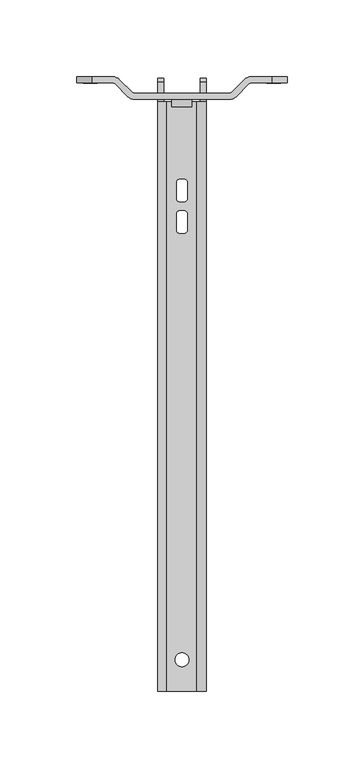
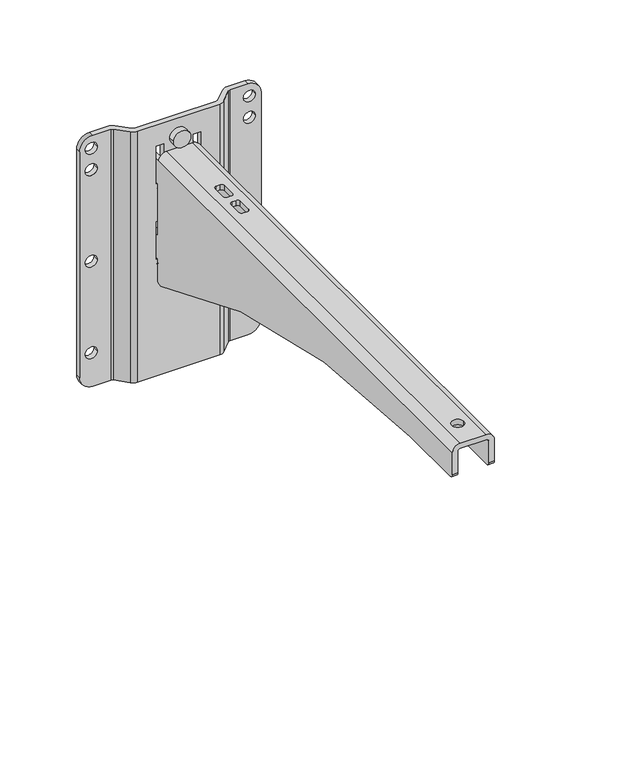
"""IFC4 building model written with IfcOpenShell, lengths in millimetres: proxy geometry, ePS12-WM380-HBRK600-WHM : ePS12-WM380-HBRK600-WHM."""

from ifc_helpers import new_model, si_unit, point, frame, frame_2d, origin, place, context, project, spatial, polyline, circle_curve, trimmed, segment, composite_curve, outline, extrude, source, transform, mapped, element, save
from ifc_brep_helpers import plane_surface, cylinder_surface, revolved_surface, advanced_brep


def generic_models_0e3356a9(model_context):
    return source(origin(), model_context, "Body", "SolidModel", [
        advanced_brep(
        [(-11.75, -399.8566017, -18.0), (-9.75, -399.8566017, -16.0), (9.75, -399.8566017, -16.0), (11.75, -399.8566017, -18.0), (11.75, -399.8566017, -35.0), (15.75, -399.8566017, -35.0), (15.75, -399.8566017, -17.9999955), (9.7500045, -399.8566017, -12.0), (-9.7500045, -399.8566017, -12.0), (-15.75, -399.8566017, -17.9999955), (-15.75, -399.8566017, -35.0), (-11.75, -399.8566017, -35.0), (15.75, -1.0, -19.5148645), (15.75, -1.0, -44.4851355), (11.75, -1.0, -44.4851355), (11.75, -1.0, -19.5148645), (15.75, -1.0, -79.5148645), (15.75, -1.0, -104.4851355), (11.75, -1.0, -104.4851355), (11.75, -1.0, -79.5148645), (-11.75, -1.0, -19.5148645), (-11.75, -1.0, -44.4851355), (-15.75, -1.0, -44.4851355), (-15.75, -1.0, -19.5148645), (-11.75, -1.0, -79.5148645), (-11.75, -1.0, -104.4851355), (-15.75, -1.0, -104.4851355), (-15.75, -1.0, -79.5148645), (-15.75, -3.6066017, -46.0), (-15.75, -6.6066017, -46.0), (-15.75, -9.6066017, -43.0), (-15.75, -9.6066017, -36.5), (-15.75, -14.6066017, -36.5), (-15.75, -14.6066017, -78.0), (-15.75, -3.6066017, -78.0), (-15.75, -3.6066017, -106.0), (-15.75, -6.6066017, -106.0), (-15.75, -9.6066017, -103.0), (-15.75, -9.6066017, -96.5), (-15.75, -14.6066017, -96.5), (-15.75, -14.6066017, -112.5881217), (-15.75, -16.6804563, -115.7221159), (-15.75, -19.036227, -115.7221159), (-15.75, -344.8566017, -38.0), (-15.75, -396.8566017, -38.0), (-15.75, -16.1066017, -17.9999955), (-15.75, -3.6066017, -18.0), (-11.75, -16.6804563, -115.7221159), (-11.75, -19.036227, -115.7221159), (-11.75, -3.6066017, -18.0), (-11.75, -16.1066017, -18.0), (-11.75, -396.8566017, -38.0), (-11.75, -344.8566017, -38.0), (-11.75, -14.6066017, -112.5881217), (-11.75, -14.6066017, -96.5), (-11.75, -9.6066017, -96.5), (-11.75, -9.6066017, -103.0), (-11.75, -6.6066017, -106.0), (-11.75, -3.6066017, -106.0), (-11.75, -3.6066017, -78.0), (-11.75, -14.6066017, -78.0), (-11.75, -14.6066017, -36.5), (-11.75, -9.6066017, -36.5), (-11.75, -9.6066017, -43.0), (-11.75, -6.6066017, -46.0), (-11.75, -3.6066017, -46.0), (-9.75, -16.1066017, -16.0), (9.75, -16.1066017, -16.0), (-4.5, -379.5, -16.0), (4.5, -379.5, -16.0), (3.5, -79.2837261, -16.0), (3.5, -68.7837261, -16.0), (1.5, -66.7837261, -16.0), (-1.5, -66.7837261, -16.0), (-3.5, -68.7837261, -16.0), (-3.5, -79.2837261, -16.0), (-1.5, -81.2837261, -16.0), (1.5, -81.2837261, -16.0), (3.5, -99.7837261, -16.0), (3.5, -89.2837261, -16.0), (1.5, -87.2837261, -16.0), (-1.5, -87.2837261, -16.0), (-3.5, -89.2837261, -16.0), (-3.5, -99.7837261, -16.0), (-1.5, -101.7837261, -16.0), (1.5, -101.7837261, -16.0), (11.75, -16.1066017, -18.0), (11.75, -3.6066017, -46.0), (11.75, -6.6066017, -46.0), (11.75, -9.6066017, -43.0), (11.75, -9.6066017, -36.5), (11.75, -14.6066017, -36.5), (11.75, -14.6066017, -78.0), (11.75, -3.6066017, -78.0), (11.75, -3.6066017, -106.0), (11.75, -6.6066017, -106.0), (11.75, -9.6066017, -103.0), (11.75, -9.6066017, -96.5), (11.75, -14.6066017, -96.5), (11.75, -14.6066017, -112.5881217), (11.75, -16.6804563, -115.7221159), (11.75, -19.036227, -115.7221159), (11.75, -344.8566017, -38.0), (11.75, -396.8566017, -38.0), (11.75, -3.6066017, -18.0), (15.75, -16.6804563, -115.7221159), (15.75, -19.036227, -115.7221159), (15.75, -3.6066017, -18.0), (15.75, -16.1066017, -18.0), (15.75, -396.8566017, -38.0), (15.75, -344.8566017, -38.0), (15.75, -14.6066017, -112.5881217), (15.75, -14.6066017, -96.5), (15.75, -9.6066017, -96.5), (15.75, -9.6066017, -103.0), (15.75, -6.6066017, -106.0), (15.75, -3.6066017, -106.0), (15.75, -3.6066017, -78.0), (15.75, -14.6066017, -78.0), (15.75, -14.6066017, -36.5), (15.75, -9.6066017, -36.5), (15.75, -9.6066017, -43.0), (15.75, -6.6066017, -46.0), (15.75, -3.6066017, -46.0), (9.7500045, -16.1066017, -12.0), (-9.7500045, -16.1066017, -12.0), (4.5, -379.5, -12.0), (-4.5, -379.5, -12.0), (3.5, -68.7837261, -12.0), (3.5, -79.2837261, -12.0), (1.5, -81.2837261, -12.0), (-1.5, -81.2837261, -12.0), (-3.5, -79.2837261, -12.0), (-3.5, -68.7837261, -12.0), (-1.5, -66.7837261, -12.0), (1.5, -66.7837261, -12.0), (3.5, -89.2837261, -12.0), (3.5, -99.7837261, -12.0), (1.5, -101.7837261, -12.0), (-1.5, -101.7837261, -12.0), (-3.5, -99.7837261, -12.0), (-3.5, -89.2837261, -12.0), (-1.5, -87.2837261, -12.0), (1.5, -87.2837261, -12.0)],
        [
            (0, 1, circle_curve(frame((-9.75, -399.8566017, -18.0), z_axis=(0.0, 1.0, 0.0), x_axis=(1.0, 0.0, 0.0)), 2.0)),
            (1, 2),
            (2, 3, circle_curve(frame((9.75, -399.8566017, -18.0), z_axis=(0.0, 1.0, 0.0), x_axis=(-1.0, 0.0, 0.0)), 2.0)),
            (3, 4),
            (4, 5),
            (5, 6),
            (6, 7, circle_curve(frame((9.7500045, -399.8566017, -17.9999955), z_axis=(0.0, -1.0, 0.0), x_axis=(-1.0, 0.0, 0.0)), 5.9999955)),
            (7, 8),
            (8, 9, circle_curve(frame((-9.7500045, -399.8566017, -17.9999955), z_axis=(0.0, -1.0, 0.0), x_axis=(1.0, 0.0, 0.0)), 5.9999955)),
            (9, 10),
            (10, 11),
            (11, 0),
            (12, 13),
            (13, 14),
            (14, 15),
            (15, 12),
            (16, 17),
            (17, 18),
            (18, 19),
            (19, 16),
            (20, 21),
            (21, 22),
            (22, 23),
            (23, 20),
            (24, 25),
            (25, 26),
            (26, 27),
            (27, 24),
            (22, 28, circle_curve(frame((-15.75, -3.6066017, -43.0), z_axis=(-1.0, 0.0, 0.0), x_axis=(0.0, 1.0, 0.0)), 3.0)),
            (28, 29),
            (29, 30, circle_curve(frame((-15.75, -6.6066017, -43.0), z_axis=(-1.0, 0.0, 0.0), x_axis=(0.0, 1.0, 0.0)), 3.0)),
            (30, 31),
            (31, 32),
            (32, 33),
            (33, 34),
            (34, 27, circle_curve(frame((-15.75, -3.6066017, -81.0), z_axis=(-1.0, 0.0, 0.0), x_axis=(0.0, 1.0, 0.0)), 3.0)),
            (26, 35, circle_curve(frame((-15.75, -3.6066017, -103.0), z_axis=(-1.0, 0.0, 0.0), x_axis=(0.0, 1.0, 0.0)), 3.0)),
            (35, 36),
            (36, 37, circle_curve(frame((-15.75, -6.6066017, -103.0), z_axis=(-1.0, 0.0, 0.0), x_axis=(0.0, 1.0, 0.0)), 3.0)),
            (37, 38),
            (38, 39),
            (39, 40),
            (40, 41, circle_curve(frame((-15.75, -18.0115638, -112.5881217), z_axis=(-1.0, 0.0, 0.0), x_axis=(0.0, 1.0, 0.0)), 3.4049621)),
            (41, 42),
            (42, 43, circle_curve(frame((-15.75, -345.1054235, -760.8430736), z_axis=(1.0, 0.0, 0.0), x_axis=(0.0, 1.0, 0.0)), 722.8431164)),
            (43, 44),
            (44, 10, circle_curve(frame((-15.75, -396.8566017, -35.0), z_axis=(-1.0, 0.0, 0.0), x_axis=(0.0, 1.0, 0.0)), 3.0)),
            (9, 45),
            (45, 46),
            (46, 23, circle_curve(frame((-15.75, -3.6066017, -21.0), z_axis=(-1.0, 0.0, 0.0), x_axis=(0.0, 1.0, 0.0)), 3.0)),
            (41, 47),
            (47, 48),
            (48, 42),
            (20, 49, circle_curve(frame((-11.75, -3.6066017, -21.0), z_axis=(1.0, 0.0, 0.0), x_axis=(0.0, 1.0, 0.0)), 3.0)),
            (49, 50),
            (50, 0),
            (11, 51, circle_curve(frame((-11.75, -396.8566017, -35.0), z_axis=(1.0, 0.0, 0.0), x_axis=(0.0, 1.0, 0.0)), 3.0)),
            (51, 52),
            (52, 48, circle_curve(frame((-11.75, -345.1054235, -760.8430736), z_axis=(-1.0, 0.0, 0.0), x_axis=(0.0, 1.0, 0.0)), 722.8431164)),
            (47, 53, circle_curve(frame((-11.75, -18.0115638, -112.5881217), z_axis=(1.0, 0.0, 0.0), x_axis=(0.0, 1.0, 0.0)), 3.4049621)),
            (53, 54),
            (54, 55),
            (55, 56),
            (56, 57, circle_curve(frame((-11.75, -6.6066017, -103.0), z_axis=(1.0, 0.0, 0.0), x_axis=(0.0, 1.0, 0.0)), 3.0)),
            (57, 58),
            (58, 25, circle_curve(frame((-11.75, -3.6066017, -103.0), z_axis=(1.0, 0.0, 0.0), x_axis=(0.0, 1.0, 0.0)), 3.0)),
            (24, 59, circle_curve(frame((-11.75, -3.6066017, -81.0), z_axis=(1.0, 0.0, 0.0), x_axis=(0.0, 1.0, 0.0)), 3.0)),
            (59, 60),
            (60, 61),
            (61, 62),
            (62, 63),
            (63, 64, circle_curve(frame((-11.75, -6.6066017, -43.0), z_axis=(1.0, 0.0, 0.0), x_axis=(0.0, 1.0, 0.0)), 3.0)),
            (64, 65),
            (65, 21, circle_curve(frame((-11.75, -3.6066017, -43.0), z_axis=(1.0, 0.0, 0.0), x_axis=(0.0, 1.0, 0.0)), 3.0)),
            (50, 66, circle_curve(frame((-9.75, -16.1066017, -18.0), z_axis=(0.0, 1.0, 0.0), x_axis=(1.0, 0.0, 0.0)), 2.0)),
            (66, 1),
            (66, 67),
            (67, 2),
            (68, 69, circle_curve(frame((0.0, -379.5, -16.0), z_axis=(0.0, 0.0, 1.0), x_axis=(1.0, 0.0, 0.0)), 4.5)),
            (69, 68, circle_curve(frame((0.0, -379.5, -16.0), z_axis=(0.0, 0.0, 1.0), x_axis=(1.0, 0.0, 0.0)), 4.5)),
            (70, 71),
            (71, 72, circle_curve(frame((1.5, -68.7837261, -16.0), z_axis=(0.0, 0.0, 1.0), x_axis=(1.0, 0.0, 0.0)), 2.0)),
            (72, 73),
            (73, 74, circle_curve(frame((-1.5, -68.7837261, -16.0), z_axis=(0.0, 0.0, 1.0), x_axis=(-1.0, 0.0, 0.0)), 2.0)),
            (74, 75),
            (75, 76, circle_curve(frame((-1.5, -79.2837261, -16.0), z_axis=(0.0, 0.0, 1.0), x_axis=(-1.0, 0.0, 0.0)), 2.0)),
            (76, 77),
            (77, 70, circle_curve(frame((1.5, -79.2837261, -16.0), z_axis=(0.0, 0.0, 1.0), x_axis=(1.0, 0.0, 0.0)), 2.0)),
            (78, 79),
            (79, 80, circle_curve(frame((1.5, -89.2837261, -16.0), z_axis=(0.0, 0.0, 1.0), x_axis=(1.0, 0.0, 0.0)), 2.0)),
            (80, 81),
            (81, 82, circle_curve(frame((-1.5, -89.2837261, -16.0), z_axis=(0.0, 0.0, 1.0), x_axis=(-1.0, 0.0, 0.0)), 2.0)),
            (82, 83),
            (83, 84, circle_curve(frame((-1.5, -99.7837261, -16.0), z_axis=(0.0, 0.0, 1.0), x_axis=(-1.0, 0.0, 0.0)), 2.0)),
            (84, 85),
            (85, 78, circle_curve(frame((1.5, -99.7837261, -16.0), z_axis=(0.0, 0.0, 1.0), x_axis=(1.0, 0.0, 0.0)), 2.0)),
            (67, 86, circle_curve(frame((9.75, -16.1066017, -18.0), z_axis=(0.0, 1.0, 0.0), x_axis=(-1.0, 0.0, 0.0)), 2.0)),
            (86, 3),
            (14, 87, circle_curve(frame((11.75, -3.6066017, -43.0), z_axis=(-1.0, 0.0, 0.0), x_axis=(0.0, 1.0, 0.0)), 3.0)),
            (87, 88),
            (88, 89, circle_curve(frame((11.75, -6.6066017, -43.0), z_axis=(-1.0, 0.0, 0.0), x_axis=(0.0, 1.0, 0.0)), 3.0)),
            (89, 90),
            (90, 91),
            (91, 92),
            (92, 93),
            (93, 19, circle_curve(frame((11.75, -3.6066017, -81.0), z_axis=(-1.0, 0.0, 0.0), x_axis=(0.0, 1.0, 0.0)), 3.0)),
            (18, 94, circle_curve(frame((11.75, -3.6066017, -103.0), z_axis=(-1.0, 0.0, 0.0), x_axis=(0.0, 1.0, 0.0)), 3.0)),
            (94, 95),
            (95, 96, circle_curve(frame((11.75, -6.6066017, -103.0), z_axis=(-1.0, 0.0, 0.0), x_axis=(0.0, 1.0, 0.0)), 3.0)),
            (96, 97),
            (97, 98),
            (98, 99),
            (99, 100, circle_curve(frame((11.75, -18.0115638, -112.5881217), z_axis=(-1.0, 0.0, 0.0), x_axis=(0.0, 1.0, 0.0)), 3.4049621)),
            (100, 101),
            (101, 102, circle_curve(frame((11.75, -345.1054235, -760.8430736), z_axis=(1.0, 0.0, 0.0), x_axis=(0.0, 1.0, 0.0)), 722.8431164)),
            (102, 103),
            (103, 4, circle_curve(frame((11.75, -396.8566017, -35.0), z_axis=(-1.0, 0.0, 0.0), x_axis=(0.0, 1.0, 0.0)), 3.0)),
            (86, 104),
            (104, 15, circle_curve(frame((11.75, -3.6066017, -21.0), z_axis=(-1.0, 0.0, 0.0), x_axis=(0.0, 1.0, 0.0)), 3.0)),
            (100, 105),
            (105, 106),
            (106, 101),
            (12, 107, circle_curve(frame((15.75, -3.6066017, -21.0), z_axis=(1.0, 0.0, 0.0), x_axis=(0.0, 1.0, 0.0)), 3.0)),
            (107, 108),
            (108, 6),
            (5, 109, circle_curve(frame((15.75, -396.8566017, -35.0), z_axis=(1.0, 0.0, 0.0), x_axis=(0.0, 1.0, 0.0)), 3.0)),
            (109, 110),
            (110, 106, circle_curve(frame((15.75, -345.1054235, -760.8430736), z_axis=(-1.0, 0.0, 0.0), x_axis=(0.0, 1.0, 0.0)), 722.8431164)),
            (105, 111, circle_curve(frame((15.75, -18.0115638, -112.5881217), z_axis=(1.0, 0.0, 0.0), x_axis=(0.0, 1.0, 0.0)), 3.4049621)),
            (111, 112),
            (112, 113),
            (113, 114),
            (114, 115, circle_curve(frame((15.75, -6.6066017, -103.0), z_axis=(1.0, 0.0, 0.0), x_axis=(0.0, 1.0, 0.0)), 3.0)),
            (115, 116),
            (116, 17, circle_curve(frame((15.75, -3.6066017, -103.0), z_axis=(1.0, 0.0, 0.0), x_axis=(0.0, 1.0, 0.0)), 3.0)),
            (16, 117, circle_curve(frame((15.75, -3.6066017, -81.0), z_axis=(1.0, 0.0, 0.0), x_axis=(0.0, 1.0, 0.0)), 3.0)),
            (117, 118),
            (118, 119),
            (119, 120),
            (120, 121),
            (121, 122, circle_curve(frame((15.75, -6.6066017, -43.0), z_axis=(1.0, 0.0, 0.0), x_axis=(0.0, 1.0, 0.0)), 3.0)),
            (122, 123),
            (123, 13, circle_curve(frame((15.75, -3.6066017, -43.0), z_axis=(1.0, 0.0, 0.0), x_axis=(0.0, 1.0, 0.0)), 3.0)),
            (108, 124, circle_curve(frame((9.7500045, -16.1066017, -17.9999955), z_axis=(0.0, -1.0, 0.0), x_axis=(-1.0, 0.0, 0.0)), 5.9999955)),
            (124, 7),
            (124, 125),
            (125, 8),
            (126, 127, circle_curve(frame((0.0, -379.5, -12.0), z_axis=(0.0, 0.0, -1.0), x_axis=(1.0, 0.0, 0.0)), 4.5)),
            (127, 126, circle_curve(frame((0.0, -379.5, -12.0), z_axis=(0.0, 0.0, -1.0), x_axis=(1.0, 0.0, 0.0)), 4.5)),
            (128, 129),
            (129, 130, circle_curve(frame((1.5, -79.2837261, -12.0), z_axis=(0.0, 0.0, -1.0), x_axis=(1.0, 0.0, 0.0)), 2.0)),
            (130, 131),
            (131, 132, circle_curve(frame((-1.5, -79.2837261, -12.0), z_axis=(0.0, 0.0, -1.0), x_axis=(-1.0, 0.0, 0.0)), 2.0)),
            (132, 133),
            (133, 134, circle_curve(frame((-1.5, -68.7837261, -12.0), z_axis=(0.0, 0.0, -1.0), x_axis=(-1.0, 0.0, 0.0)), 2.0)),
            (134, 135),
            (135, 128, circle_curve(frame((1.5, -68.7837261, -12.0), z_axis=(0.0, 0.0, -1.0), x_axis=(1.0, 0.0, 0.0)), 2.0)),
            (136, 137),
            (137, 138, circle_curve(frame((1.5, -99.7837261, -12.0), z_axis=(0.0, 0.0, -1.0), x_axis=(1.0, 0.0, 0.0)), 2.0)),
            (138, 139),
            (139, 140, circle_curve(frame((-1.5, -99.7837261, -12.0), z_axis=(0.0, 0.0, -1.0), x_axis=(-1.0, 0.0, 0.0)), 2.0)),
            (140, 141),
            (141, 142, circle_curve(frame((-1.5, -89.2837261, -12.0), z_axis=(0.0, 0.0, -1.0), x_axis=(-1.0, 0.0, 0.0)), 2.0)),
            (142, 143),
            (143, 136, circle_curve(frame((1.5, -89.2837261, -12.0), z_axis=(0.0, 0.0, -1.0), x_axis=(1.0, 0.0, 0.0)), 2.0)),
            (125, 45, circle_curve(frame((-9.7500045, -16.1066017, -17.9999955), z_axis=(0.0, -1.0, 0.0), x_axis=(1.0, 0.0, 0.0)), 5.9999955)),
            (68, 127),
            (126, 69),
            (70, 129),
            (128, 71),
            (135, 72),
            (134, 73),
            (133, 74),
            (132, 75),
            (131, 76),
            (130, 77),
            (78, 137),
            (136, 79),
            (143, 80),
            (142, 81),
            (141, 82),
            (140, 83),
            (139, 84),
            (138, 85),
            (28, 65),
            (64, 29),
            (87, 123),
            (122, 88),
            (30, 63),
            (62, 31),
            (89, 121),
            (120, 90),
            (61, 32),
            (119, 91),
            (39, 54),
            (53, 40),
            (98, 112),
            (111, 99),
            (50, 45),
            (108, 86),
            (49, 46),
            (107, 104),
            (60, 33),
            (118, 92),
            (59, 34),
            (117, 93),
            (58, 35),
            (116, 94),
            (57, 36),
            (115, 95),
            (56, 37),
            (114, 96),
            (55, 38),
            (113, 97),
            (44, 51),
            (103, 109),
            (52, 43),
            (110, 102),
        ],
        [
            plane_surface(frame((-15.75, -399.8566017, -111.5465509), z_axis=(0.0, -1.0, 0.0), x_axis=(0.0, 0.0, -1.0))),
            plane_surface(frame((-15.75, -1.0, -111.5465509), z_axis=(0.0, 1.0, 0.0), x_axis=(0.0, 0.0, 1.0))),
            plane_surface(frame((-15.75, -399.8566017, -17.9999955), z_axis=(-1.0, 0.0, 0.0), x_axis=(0.0, 1.0, 0.0))),
            plane_surface(frame((-15.75, -399.8566017, -115.7221159), z_axis=(0.0, 0.0, -1.0), x_axis=(0.0, 1.0, 0.0))),
            plane_surface(frame((-11.75, -399.8566017, -115.7221159), z_axis=(1.0, 0.0, 0.0), x_axis=(0.0, 1.0, 0.0))),
            revolved_surface(polyline([(-7.75, -16.1066017, -18.0), (-7.75, -399.8566017, -18.0)]), (-9.75, -1.0, -18.0), (0.0, 1.0, 0.0)),
            plane_surface(frame((-9.75, -399.8566017, -16.0), z_axis=(0.0, 0.0, -1.0), x_axis=(0.0, 1.0, 0.0))),
            revolved_surface(polyline([(7.75, -16.1066017, -18.0), (7.75, -399.8566017, -18.0)]), (9.75, -1.0, -18.0), (0.0, 1.0, 0.0)),
            plane_surface(frame((11.75, -399.8566017, -18.0), z_axis=(-1.0, 0.0, 0.0), x_axis=(0.0, 1.0, 0.0))),
            plane_surface(frame((11.75, -399.8566017, -115.7221159), z_axis=(0.0, 0.0, -1.0), x_axis=(0.0, 1.0, 0.0))),
            plane_surface(frame((15.75, -399.8566017, -115.7221159), z_axis=(1.0, 0.0, 0.0), x_axis=(0.0, 1.0, 0.0))),
            cylinder_surface(frame((9.7500045, -1.0, -17.9999955), z_axis=(0.0, -1.0, 0.0), x_axis=(-1.0, 0.0, 0.0)), 5.9999955),
            plane_surface(frame((9.7500045, -399.8566017, -12.0), z_axis=(0.0, 0.0, 1.0), x_axis=(0.0, 1.0, 0.0))),
            cylinder_surface(frame((-9.7500045, -1.0, -17.9999955), z_axis=(0.0, -1.0, 0.0), x_axis=(1.0, 0.0, 0.0)), 5.9999955),
            revolved_surface(polyline([(4.5, -379.5, -12.0), (4.5, -379.5, -16.0)]), (0.0, -379.5, -18.0), (0.0, 0.0, 1.0)),
            plane_surface(frame((3.5, -79.2837261, -12.0), z_axis=(-1.0, 0.0, 0.0), x_axis=(0.0, 0.0, -1.0))),
            revolved_surface(polyline([(3.5, -68.7837261, -12.0), (3.5, -68.7837261, -16.0)]), (1.5, -68.7837261, -12.0), (0.0, 0.0, 1.0)),
            plane_surface(frame((1.5, -66.7837261, -12.0), z_axis=(0.0, -1.0, 0.0), x_axis=(0.0, 0.0, -1.0))),
            revolved_surface(polyline([(-3.5, -68.7837261, -12.0), (-3.5, -68.7837261, -16.0)]), (-1.5, -68.7837261, -12.0), (0.0, 0.0, 1.0)),
            plane_surface(frame((-3.5, -68.7837261, -12.0), z_axis=(1.0, 0.0, 0.0), x_axis=(0.0, 0.0, -1.0))),
            revolved_surface(polyline([(-3.5, -79.2837261, -12.0), (-3.5, -79.2837261, -16.0)]), (-1.5, -79.2837261, -12.0), (0.0, 0.0, 1.0)),
            plane_surface(frame((-1.5, -81.2837261, -12.0), z_axis=(0.0, 1.0, 0.0), x_axis=(0.0, 0.0, -1.0))),
            revolved_surface(polyline([(3.5, -79.2837261, -12.0), (3.5, -79.2837261, -16.0)]), (1.5, -79.2837261, -12.0), (0.0, 0.0, 1.0)),
            plane_surface(frame((3.5, -99.7837261, -12.0), z_axis=(-1.0, 0.0, 0.0), x_axis=(0.0, 0.0, -1.0))),
            revolved_surface(polyline([(3.5, -89.2837261, -12.0), (3.5, -89.2837261, -16.0)]), (1.5, -89.2837261, -12.0), (0.0, 0.0, 1.0)),
            plane_surface(frame((1.5, -87.2837261, -12.0), z_axis=(0.0, -1.0, 0.0), x_axis=(0.0, 0.0, -1.0))),
            revolved_surface(polyline([(-3.5, -89.2837261, -12.0), (-3.5, -89.2837261, -16.0)]), (-1.5, -89.2837261, -12.0), (0.0, 0.0, 1.0)),
            plane_surface(frame((-3.5, -89.2837261, -12.0), z_axis=(1.0, 0.0, 0.0), x_axis=(0.0, 0.0, -1.0))),
            revolved_surface(polyline([(-3.5, -99.7837261, -12.0), (-3.5, -99.7837261, -16.0)]), (-1.5, -99.7837261, -12.0), (0.0, 0.0, 1.0)),
            plane_surface(frame((-1.5, -101.7837261, -12.0), z_axis=(0.0, 1.0, 0.0), x_axis=(0.0, 0.0, -1.0))),
            revolved_surface(polyline([(3.5, -99.7837261, -12.0), (3.5, -99.7837261, -16.0)]), (1.5, -99.7837261, -12.0), (0.0, 0.0, 1.0)),
            plane_surface(frame((20.0, -3.6066017, -46.0), z_axis=(0.0, 0.0, -1.0), x_axis=(-1.0, 0.0, 0.0))),
            plane_surface(frame((20.0, -9.6066017, -43.0), z_axis=(0.0, -1.0, 0.0), x_axis=(-1.0, 0.0, 0.0))),
            plane_surface(frame((20.0, -9.6066017, -36.5), z_axis=(0.0, 0.0, -1.0), x_axis=(-1.0, 0.0, 0.0))),
            plane_surface(frame((20.0, -14.6066017, -96.5), z_axis=(0.0, 1.0, 0.0), x_axis=(-1.0, 0.0, 0.0))),
            plane_surface(frame((20.0, -16.1066017, -12.0), z_axis=(0.0, 1.0, 0.0), x_axis=(-1.0, 0.0, 0.0))),
            plane_surface(frame((20.0, -16.1066017, -18.0), z_axis=(0.0, 0.0, 1.0), x_axis=(-1.0, 0.0, 0.0))),
            cylinder_surface(frame((-20.0, -3.6066017, -21.0), z_axis=(-1.0, 0.0, 0.0), x_axis=(0.0, 1.0, 0.0)), 3.0),
            cylinder_surface(frame((-20.0, -3.6066017, -43.0), z_axis=(-1.0, 0.0, 0.0), x_axis=(0.0, 1.0, 0.0)), 3.0),
            cylinder_surface(frame((-20.0, -6.6066017, -43.0), z_axis=(-1.0, 0.0, 0.0), x_axis=(0.0, 1.0, 0.0)), 3.0),
            plane_surface(frame((20.0, -14.6066017, -36.5), z_axis=(0.0, 1.0, 0.0), x_axis=(-1.0, 0.0, 0.0))),
            plane_surface(frame((20.0, -14.6066017, -78.0), z_axis=(0.0, 0.0, 1.0), x_axis=(-1.0, 0.0, 0.0))),
            cylinder_surface(frame((-20.0, -3.6066017, -81.0), z_axis=(-1.0, 0.0, 0.0), x_axis=(0.0, 1.0, 0.0)), 3.0),
            cylinder_surface(frame((-20.0, -3.6066017, -103.0), z_axis=(-1.0, 0.0, 0.0), x_axis=(0.0, 1.0, 0.0)), 3.0),
            plane_surface(frame((20.0, -3.6066017, -106.0), z_axis=(0.0, 0.0, -1.0), x_axis=(-1.0, 0.0, 0.0))),
            cylinder_surface(frame((-20.0, -6.6066017, -103.0), z_axis=(-1.0, 0.0, 0.0), x_axis=(0.0, 1.0, 0.0)), 3.0),
            plane_surface(frame((20.0, -9.6066017, -103.0), z_axis=(0.0, -1.0, 0.0), x_axis=(-1.0, 0.0, 0.0))),
            plane_surface(frame((20.0, -9.6066017, -96.5), z_axis=(0.0, 0.0, -1.0), x_axis=(-1.0, 0.0, 0.0))),
            cylinder_surface(frame((-25.0, -396.8566017, -35.0), z_axis=(-1.0, 0.0, 0.0), x_axis=(0.0, 1.0, 0.0)), 3.0),
            cylinder_surface(frame((-25.0, -18.0115638, -112.5881217), z_axis=(-1.0, 0.0, 0.0), x_axis=(0.0, 1.0, 0.0)), 3.4049621),
            revolved_surface(polyline([(-11.75, 377.7376929, -760.8430736), (-15.75, 377.7376929, -760.8430736)]), (-25.0, -345.1054235, -760.8430736), (1.0, 0.0, 0.0)),
            revolved_surface(polyline([(15.75, 377.7376929, -760.8430736), (11.75, 377.7376929, -760.8430736)]), (-25.0, -345.1054235, -760.8430736), (1.0, 0.0, 0.0)),
            plane_surface(frame((25.0, -344.8566017, -38.0), z_axis=(0.0, 0.0, -1.0), x_axis=(-1.0, 0.0, 0.0))),
        ],
        [
            (0, [[1, 2, 3, 4, 5, 6, 7, 8, 9, 10, 11, 12]]),
            (1, [[13, 14, 15, 16]]),
            (1, [[17, 18, 19, 20]]),
            (1, [[21, 22, 23, 24]]),
            (1, [[25, 26, 27, 28]]),
            (2, [[-23, 29, 30, 31, 32, 33, 34, 35, 36, -27, 37, 38, 39, 40, 41, 42, 43, 44, 45, 46, 47, -10, 48, 49, 50]]),
            (3, [[-44, 51, 52, 53]]),
            (4, [[-21, 54, 55, 56, -12, 57, 58, 59, -52, 60, 61, 62, 63, 64, 65, 66, -25, 67, 68, 69, 70, 71, 72, 73, 74]]),
            (5, [[-1, -56, 75, 76]]),
            (6, [[-2, -76, 77, 78], [79, 80], [81, 82, 83, 84, 85, 86, 87, 88], [89, 90, 91, 92, 93, 94, 95, 96]]),
            (7, [[-3, -78, 97, 98]]),
            (8, [[-15, 99, 100, 101, 102, 103, 104, 105, 106, -19, 107, 108, 109, 110, 111, 112, 113, 114, 115, 116, 117, -4, -98, 118, 119]]),
            (9, [[-114, 120, 121, 122]]),
            (10, [[-13, 123, 124, 125, -6, 126, 127, 128, -121, 129, 130, 131, 132, 133, 134, 135, -17, 136, 137, 138, 139, 140, 141, 142, 143]]),
            (11, [[-7, -125, 144, 145]]),
            (12, [[-8, -145, 146, 147], [148, 149], [150, 151, 152, 153, 154, 155, 156, 157], [158, 159, 160, 161, 162, 163, 164, 165]]),
            (13, [[-9, -147, 166, -48]]),
            (14, [[167, -148, 168, -79]]),
            (14, [[-167, -80, -168, -149]]),
            (15, [[169, -150, 170, -81]]),
            (16, [[-170, -157, 171, -82]]),
            (17, [[-171, -156, 172, -83]]),
            (18, [[-172, -155, 173, -84]]),
            (19, [[-173, -154, 174, -85]]),
            (20, [[-174, -153, 175, -86]]),
            (21, [[-175, -152, 176, -87]]),
            (22, [[-169, -88, -176, -151]]),
            (23, [[177, -158, 178, -89]]),
            (24, [[-178, -165, 179, -90]]),
            (25, [[-179, -164, 180, -91]]),
            (26, [[-180, -163, 181, -92]]),
            (27, [[-181, -162, 182, -93]]),
            (28, [[-182, -161, 183, -94]]),
            (29, [[-183, -160, 184, -95]]),
            (30, [[-177, -96, -184, -159]]),
            (31, [[185, -73, 186, -30]]),
            (31, [[187, -142, 188, -100]]),
            (32, [[189, -71, 190, -32]]),
            (32, [[191, -140, 192, -102]]),
            (33, [[-190, -70, 193, -33]]),
            (33, [[-192, -139, 194, -103]]),
            (34, [[195, -61, 196, -42]]),
            (34, [[197, -130, 198, -112]]),
            (35, [[199, -166, -146, -144, 200, -97, -77, -75]]),
            (36, [[-199, -55, 201, -49]]),
            (36, [[-200, -124, 202, -118]]),
            (37, [[-201, -54, -24, -50]]),
            (37, [[-202, -123, -16, -119]]),
            (38, [[-185, -29, -22, -74]]),
            (38, [[-187, -99, -14, -143]]),
            (39, [[-189, -31, -186, -72]]),
            (39, [[-191, -101, -188, -141]]),
            (40, [[-193, -69, 203, -34]]),
            (40, [[-194, -138, 204, -104]]),
            (41, [[-203, -68, 205, -35]]),
            (41, [[-204, -137, 206, -105]]),
            (42, [[-205, -67, -28, -36]]),
            (42, [[-206, -136, -20, -106]]),
            (43, [[207, -37, -26, -66]]),
            (43, [[208, -107, -18, -135]]),
            (44, [[-207, -65, 209, -38]]),
            (44, [[-208, -134, 210, -108]]),
            (45, [[-209, -64, 211, -39]]),
            (45, [[-210, -133, 212, -109]]),
            (46, [[-211, -63, 213, -40]]),
            (46, [[-212, -132, 214, -110]]),
            (47, [[-195, -41, -213, -62]]),
            (47, [[-197, -111, -214, -131]]),
            (48, [[215, -57, -11, -47]]),
            (48, [[216, -126, -5, -117]]),
            (49, [[-43, -196, -60, -51]]),
            (49, [[-113, -198, -129, -120]]),
            (50, [[217, -45, -53, -59]]),
            (51, [[218, -115, -122, -128]]),
            (52, [[-215, -46, -217, -58]]),
            (52, [[-216, -116, -218, -127]]),
        ],
    ),
        extrude(outline(composite_curve([segment(trimmed(circle_curve(frame_2d((-3.5647723, 0.0)), 6.5342939), [point((-3.5647723, -6.5342939))], [point((-3.5647723, 6.5342939))], False, "CARTESIAN"), True, "CONTINUOUS"), segment(trimmed(circle_curve(frame_2d((-3.5647723, 0.0)), 6.5342939), [point((-3.5647723, 6.5342939))], [point((-3.5647723, -6.5342939))], False, "CARTESIAN"), True, "CONTINUOUS")], self_intersect=False)), frame((0.0, -19.6066017, 0.0), z_axis=(0.0, 1.0, 0.0), x_axis=(0.0, 0.0, 1.0)), (0.0, 0.0, 1.0), 5.0),
        advanced_brep(
        [(44.9203102, 0.0, 10.5), (40.6776695, -1.7573593, 10.5), (32.4142136, -10.0208153, 10.5), (31.0, -10.6066017, 10.5), (-31.0, -10.6066017, 10.5), (-32.4142136, -10.0208153, 10.5), (-40.6776695, -1.7573593, 10.5), (-44.9203102, 0.0, 10.5), (-58.4350288, 0.0, 10.5), (-58.4350288, -4.0, 10.5), (-44.9203102, -4.0, 10.5), (-43.5060967, -4.5857864, 10.5), (-35.2426407, -12.8492424, 10.5), (-31.0, -14.6066017, 10.5), (31.0, -14.6066017, 10.5), (35.2426407, -12.8492424, 10.5), (43.5060967, -4.5857864, 10.5), (44.9203102, -4.0, 10.5), (58.4350288, -4.0, 10.5), (58.4350288, 0.0, 10.5), (44.9203102, -4.0, -189.5), (43.5060967, -4.5857864, -189.5), (35.2426407, -12.8492424, -189.5), (31.0, -14.6066017, -189.5), (-31.0, -14.6066017, -189.5), (-35.2426407, -12.8492424, -189.5), (-43.5060967, -4.5857864, -189.5), (-44.9203102, -4.0, -189.5), (-58.4350288, -4.0, -189.5), (-58.4350288, 0.0, -189.5), (-44.9203102, 0.0, -189.5), (-40.6776695, -1.7573593, -189.5), (-32.4142136, -10.0208153, -189.5), (-31.0, -10.6066017, -189.5), (31.0, -10.6066017, -189.5), (32.4142136, -10.0208153, -189.5), (40.6776695, -1.7573593, -189.5), (44.9203102, 0.0, -189.5), (58.4350288, 0.0, -189.5), (58.4350288, -4.0, -189.5), (68.4350288, 0.0, 0.5), (68.4350288, 0.0, -179.5), (55.1844308, 0.0, 0.5), (64.1844308, 0.0, 0.5), (55.1844308, 0.0, -16.5), (64.1844308, 0.0, -16.5), (55.1844308, 0.0, -89.5), (64.1844308, 0.0, -89.5), (55.1844308, 0.0, -162.5), (64.1844308, 0.0, -162.5), (16.75, -10.6066017, -6.5), (11.25, -10.6066017, -6.5), (11.25, -10.6066017, -36.5), (16.75, -10.6066017, -36.5), (16.75, -10.6066017, -66.5), (11.25, -10.6066017, -66.5), (11.25, -10.6066017, -96.5), (16.75, -10.6066017, -96.5), (-16.75, -10.6066017, -6.5), (-16.75, -10.6066017, -36.5), (-11.25, -10.6066017, -36.5), (-11.25, -10.6066017, -6.5), (-16.75, -10.6066017, -66.5), (-16.75, -10.6066017, -96.5), (-11.25, -10.6066017, -96.5), (-11.25, -10.6066017, -66.5), (-68.4350288, 0.0, -179.5), (-68.4350288, 0.0, 0.5), (-55.1844308, 0.0, 0.5), (-64.1844308, 0.0, 0.5), (-55.1844308, 0.0, -16.5), (-64.1844308, 0.0, -16.5), (-55.1844308, 0.0, -89.5), (-64.1844308, 0.0, -89.5), (-55.1844308, 0.0, -162.5), (-64.1844308, 0.0, -162.5), (-68.4350288, -4.0, -179.5), (-68.4350288, -4.0, 0.5), (-64.1844308, -4.0, 0.5), (-55.1844308, -4.0, 0.5), (-64.1844308, -4.0, -16.5), (-55.1844308, -4.0, -16.5), (-64.1844308, -4.0, -89.5), (-55.1844308, -4.0, -89.5), (-64.1844308, -4.0, -162.5), (-55.1844308, -4.0, -162.5), (11.25, -14.6066017, -6.5), (16.75, -14.6066017, -6.5), (16.75, -14.6066017, -36.5), (11.25, -14.6066017, -36.5), (11.25, -14.6066017, -66.5), (16.75, -14.6066017, -66.5), (16.75, -14.6066017, -96.5), (11.25, -14.6066017, -96.5), (-16.75, -14.6066017, -36.5), (-16.75, -14.6066017, -6.5), (-11.25, -14.6066017, -6.5), (-11.25, -14.6066017, -36.5), (-16.75, -14.6066017, -96.5), (-16.75, -14.6066017, -66.5), (-11.25, -14.6066017, -66.5), (-11.25, -14.6066017, -96.5), (68.4350288, -4.0, -179.5), (68.4350288, -4.0, 0.5), (64.1844308, -4.0, 0.5), (55.1844308, -4.0, 0.5), (64.1844308, -4.0, -16.5), (55.1844308, -4.0, -16.5), (64.1844308, -4.0, -89.5), (55.1844308, -4.0, -89.5), (64.1844308, -4.0, -162.5), (55.1844308, -4.0, -162.5)],
        [
            (0, 1, circle_curve(frame((44.9203102, -6.0, 10.5), z_axis=(0.0, 0.0, 1.0), x_axis=(1.0, 0.0, 0.0)), 6.0)),
            (1, 2),
            (2, 3, circle_curve(frame((31.0, -8.6066017, 10.5), z_axis=(0.0, 0.0, -1.0), x_axis=(1.0, 0.0, 0.0)), 2.0)),
            (3, 4),
            (4, 5, circle_curve(frame((-31.0, -8.6066017, 10.5), z_axis=(0.0, 0.0, -1.0), x_axis=(1.0, 0.0, 0.0)), 2.0)),
            (5, 6),
            (6, 7, circle_curve(frame((-44.9203102, -6.0, 10.5), z_axis=(0.0, 0.0, 1.0), x_axis=(1.0, 0.0, 0.0)), 6.0)),
            (7, 8),
            (8, 9),
            (9, 10),
            (10, 11, circle_curve(frame((-44.9203102, -6.0, 10.5), z_axis=(0.0, 0.0, -1.0), x_axis=(1.0, 0.0, 0.0)), 2.0)),
            (11, 12),
            (12, 13, circle_curve(frame((-31.0, -8.6066017, 10.5), z_axis=(0.0, 0.0, 1.0), x_axis=(1.0, 0.0, 0.0)), 6.0)),
            (13, 14),
            (14, 15, circle_curve(frame((31.0, -8.6066017, 10.5), z_axis=(0.0, 0.0, 1.0), x_axis=(1.0, 0.0, 0.0)), 6.0)),
            (15, 16),
            (16, 17, circle_curve(frame((44.9203102, -6.0, 10.5), z_axis=(0.0, 0.0, -1.0), x_axis=(1.0, 0.0, 0.0)), 2.0)),
            (17, 18),
            (18, 19),
            (19, 0),
            (20, 21, circle_curve(frame((44.9203102, -6.0, -189.5), z_axis=(0.0, 0.0, 1.0), x_axis=(1.0, 0.0, 0.0)), 2.0)),
            (21, 22),
            (22, 23, circle_curve(frame((31.0, -8.6066017, -189.5), z_axis=(0.0, 0.0, -1.0), x_axis=(1.0, 0.0, 0.0)), 6.0)),
            (23, 24),
            (24, 25, circle_curve(frame((-31.0, -8.6066017, -189.5), z_axis=(0.0, 0.0, -1.0), x_axis=(1.0, 0.0, 0.0)), 6.0)),
            (25, 26),
            (26, 27, circle_curve(frame((-44.9203102, -6.0, -189.5), z_axis=(0.0, 0.0, 1.0), x_axis=(1.0, 0.0, 0.0)), 2.0)),
            (27, 28),
            (28, 29),
            (29, 30),
            (30, 31, circle_curve(frame((-44.9203102, -6.0, -189.5), z_axis=(0.0, 0.0, -1.0), x_axis=(1.0, 0.0, 0.0)), 6.0)),
            (31, 32),
            (32, 33, circle_curve(frame((-31.0, -8.6066017, -189.5), z_axis=(0.0, 0.0, 1.0), x_axis=(1.0, 0.0, 0.0)), 2.0)),
            (33, 34),
            (34, 35, circle_curve(frame((31.0, -8.6066017, -189.5), z_axis=(0.0, 0.0, 1.0), x_axis=(1.0, 0.0, 0.0)), 2.0)),
            (35, 36),
            (36, 37, circle_curve(frame((44.9203102, -6.0, -189.5), z_axis=(0.0, 0.0, -1.0), x_axis=(1.0, 0.0, 0.0)), 6.0)),
            (37, 38),
            (38, 39),
            (39, 20),
            (37, 0),
            (19, 40, circle_curve(frame((58.4350288, 0.0, 0.5), z_axis=(0.0, 1.0, 0.0), x_axis=(1.0, 0.0, 0.0)), 10.0)),
            (40, 41),
            (41, 38, circle_curve(frame((58.4350288, 0.0, -179.5), z_axis=(0.0, 1.0, 0.0), x_axis=(1.0, 0.0, 0.0)), 10.0)),
            (42, 43, circle_curve(frame((59.6844308, 0.0, 0.5), z_axis=(0.0, -1.0, 0.0), x_axis=(1.0, 0.0, 0.0)), 4.5)),
            (43, 42, circle_curve(frame((59.6844308, 0.0, 0.5), z_axis=(0.0, -1.0, 0.0), x_axis=(1.0, 0.0, 0.0)), 4.5)),
            (44, 45, circle_curve(frame((59.6844308, 0.0, -16.5), z_axis=(0.0, -1.0, 0.0), x_axis=(1.0, 0.0, 0.0)), 4.5)),
            (45, 44, circle_curve(frame((59.6844308, 0.0, -16.5), z_axis=(0.0, -1.0, 0.0), x_axis=(1.0, 0.0, 0.0)), 4.5)),
            (46, 47, circle_curve(frame((59.6844308, 0.0, -89.5), z_axis=(0.0, -1.0, 0.0), x_axis=(1.0, 0.0, 0.0)), 4.5)),
            (47, 46, circle_curve(frame((59.6844308, 0.0, -89.5), z_axis=(0.0, -1.0, 0.0), x_axis=(1.0, 0.0, 0.0)), 4.5)),
            (48, 49, circle_curve(frame((59.6844308, 0.0, -162.5), z_axis=(0.0, -1.0, 0.0), x_axis=(1.0, 0.0, 0.0)), 4.5)),
            (49, 48, circle_curve(frame((59.6844308, 0.0, -162.5), z_axis=(0.0, -1.0, 0.0), x_axis=(1.0, 0.0, 0.0)), 4.5)),
            (36, 1),
            (35, 2),
            (34, 3),
            (33, 4),
            (50, 51),
            (51, 52),
            (52, 53),
            (53, 50),
            (54, 55),
            (55, 56),
            (56, 57),
            (57, 54),
            (58, 59),
            (59, 60),
            (60, 61),
            (61, 58),
            (62, 63),
            (63, 64),
            (64, 65),
            (65, 62),
            (32, 5),
            (31, 6),
            (30, 7),
            (29, 66, circle_curve(frame((-58.4350288, 0.0, -179.5), z_axis=(0.0, 1.0, 0.0), x_axis=(-1.0, 0.0, 0.0)), 10.0)),
            (66, 67),
            (67, 8, circle_curve(frame((-58.4350288, 0.0, 0.5), z_axis=(0.0, 1.0, 0.0), x_axis=(-1.0, 0.0, 0.0)), 10.0)),
            (68, 69, circle_curve(frame((-59.6844308, 0.0, 0.5), z_axis=(0.0, -1.0, 0.0), x_axis=(-1.0, 0.0, 0.0)), 4.5)),
            (69, 68, circle_curve(frame((-59.6844308, 0.0, 0.5), z_axis=(0.0, -1.0, 0.0), x_axis=(-1.0, 0.0, 0.0)), 4.5)),
            (70, 71, circle_curve(frame((-59.6844308, 0.0, -16.5), z_axis=(0.0, -1.0, 0.0), x_axis=(-1.0, 0.0, 0.0)), 4.5)),
            (71, 70, circle_curve(frame((-59.6844308, 0.0, -16.5), z_axis=(0.0, -1.0, 0.0), x_axis=(-1.0, 0.0, 0.0)), 4.5)),
            (72, 73, circle_curve(frame((-59.6844308, 0.0, -89.5), z_axis=(0.0, -1.0, 0.0), x_axis=(-1.0, 0.0, 0.0)), 4.5)),
            (73, 72, circle_curve(frame((-59.6844308, 0.0, -89.5), z_axis=(0.0, -1.0, 0.0), x_axis=(-1.0, 0.0, 0.0)), 4.5)),
            (74, 75, circle_curve(frame((-59.6844308, 0.0, -162.5), z_axis=(0.0, -1.0, 0.0), x_axis=(-1.0, 0.0, 0.0)), 4.5)),
            (75, 74, circle_curve(frame((-59.6844308, 0.0, -162.5), z_axis=(0.0, -1.0, 0.0), x_axis=(-1.0, 0.0, 0.0)), 4.5)),
            (66, 76),
            (76, 77),
            (77, 67),
            (27, 10),
            (9, 77, circle_curve(frame((-58.4350288, -4.0, 0.5), z_axis=(0.0, -1.0, 0.0), x_axis=(-1.0, 0.0, 0.0)), 10.0)),
            (76, 28, circle_curve(frame((-58.4350288, -4.0, -179.5), z_axis=(0.0, -1.0, 0.0), x_axis=(-1.0, 0.0, 0.0)), 10.0)),
            (78, 79, circle_curve(frame((-59.6844308, -4.0, 0.5), z_axis=(0.0, 1.0, 0.0), x_axis=(-1.0, 0.0, 0.0)), 4.5)),
            (79, 78, circle_curve(frame((-59.6844308, -4.0, 0.5), z_axis=(0.0, 1.0, 0.0), x_axis=(-1.0, 0.0, 0.0)), 4.5)),
            (80, 81, circle_curve(frame((-59.6844308, -4.0, -16.5), z_axis=(0.0, 1.0, 0.0), x_axis=(-1.0, 0.0, 0.0)), 4.5)),
            (81, 80, circle_curve(frame((-59.6844308, -4.0, -16.5), z_axis=(0.0, 1.0, 0.0), x_axis=(-1.0, 0.0, 0.0)), 4.5)),
            (82, 83, circle_curve(frame((-59.6844308, -4.0, -89.5), z_axis=(0.0, 1.0, 0.0), x_axis=(-1.0, 0.0, 0.0)), 4.5)),
            (83, 82, circle_curve(frame((-59.6844308, -4.0, -89.5), z_axis=(0.0, 1.0, 0.0), x_axis=(-1.0, 0.0, 0.0)), 4.5)),
            (84, 85, circle_curve(frame((-59.6844308, -4.0, -162.5), z_axis=(0.0, 1.0, 0.0), x_axis=(-1.0, 0.0, 0.0)), 4.5)),
            (85, 84, circle_curve(frame((-59.6844308, -4.0, -162.5), z_axis=(0.0, 1.0, 0.0), x_axis=(-1.0, 0.0, 0.0)), 4.5)),
            (26, 11),
            (25, 12),
            (24, 13),
            (23, 14),
            (86, 87),
            (87, 88),
            (88, 89),
            (89, 86),
            (90, 91),
            (91, 92),
            (92, 93),
            (93, 90),
            (94, 95),
            (95, 96),
            (96, 97),
            (97, 94),
            (98, 99),
            (99, 100),
            (100, 101),
            (101, 98),
            (22, 15),
            (21, 16),
            (20, 17),
            (39, 102, circle_curve(frame((58.4350288, -4.0, -179.5), z_axis=(0.0, -1.0, 0.0), x_axis=(1.0, 0.0, 0.0)), 10.0)),
            (102, 103),
            (103, 18, circle_curve(frame((58.4350288, -4.0, 0.5), z_axis=(0.0, -1.0, 0.0), x_axis=(1.0, 0.0, 0.0)), 10.0)),
            (104, 105, circle_curve(frame((59.6844308, -4.0, 0.5), z_axis=(0.0, 1.0, 0.0), x_axis=(1.0, 0.0, 0.0)), 4.5)),
            (105, 104, circle_curve(frame((59.6844308, -4.0, 0.5), z_axis=(0.0, 1.0, 0.0), x_axis=(1.0, 0.0, 0.0)), 4.5)),
            (106, 107, circle_curve(frame((59.6844308, -4.0, -16.5), z_axis=(0.0, 1.0, 0.0), x_axis=(1.0, 0.0, 0.0)), 4.5)),
            (107, 106, circle_curve(frame((59.6844308, -4.0, -16.5), z_axis=(0.0, 1.0, 0.0), x_axis=(1.0, 0.0, 0.0)), 4.5)),
            (108, 109, circle_curve(frame((59.6844308, -4.0, -89.5), z_axis=(0.0, 1.0, 0.0), x_axis=(1.0, 0.0, 0.0)), 4.5)),
            (109, 108, circle_curve(frame((59.6844308, -4.0, -89.5), z_axis=(0.0, 1.0, 0.0), x_axis=(1.0, 0.0, 0.0)), 4.5)),
            (110, 111, circle_curve(frame((59.6844308, -4.0, -162.5), z_axis=(0.0, 1.0, 0.0), x_axis=(1.0, 0.0, 0.0)), 4.5)),
            (111, 110, circle_curve(frame((59.6844308, -4.0, -162.5), z_axis=(0.0, 1.0, 0.0), x_axis=(1.0, 0.0, 0.0)), 4.5)),
            (40, 103),
            (102, 41),
            (42, 105),
            (104, 43),
            (44, 107),
            (106, 45),
            (46, 109),
            (108, 47),
            (48, 111),
            (110, 49),
            (50, 87),
            (86, 51),
            (89, 52),
            (88, 53),
            (54, 91),
            (90, 55),
            (93, 56),
            (92, 57),
            (68, 79),
            (78, 69),
            (70, 81),
            (80, 71),
            (72, 83),
            (82, 73),
            (74, 85),
            (84, 75),
            (58, 95),
            (94, 59),
            (97, 60),
            (96, 61),
            (62, 99),
            (98, 63),
            (101, 64),
            (100, 65),
        ],
        [
            plane_surface(frame((68.4350288, 0.0, 10.5), z_axis=(0.0, 0.0, 1.0), x_axis=(-1.0, 0.0, 0.0))),
            plane_surface(frame((68.4350288, 0.0, -189.5), z_axis=(0.0, 0.0, -1.0), x_axis=(1.0, 0.0, 0.0))),
            plane_surface(frame((68.4350288, 0.0, 10.5), z_axis=(0.0, 1.0, 0.0), x_axis=(0.0, 0.0, -1.0))),
            cylinder_surface(frame((44.9203102, -6.0, -189.5), z_axis=(0.0, 0.0, 1.0), x_axis=(1.0, 0.0, 0.0)), 6.0),
            plane_surface(frame((40.6776695, -1.7573593, 10.5), z_axis=(-0.7071067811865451, 0.70710678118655, 0.0), x_axis=(0.0, 0.0, -1.0))),
            revolved_surface(polyline([(33.0, -8.6066017, -189.5), (33.0, -8.6066017, 10.5)]), (31.0, -8.6066017, -189.5), (0.0, 0.0, -1.0)),
            plane_surface(frame((31.0, -10.6066017, 10.5), z_axis=(0.0, 1.0, 0.0), x_axis=(0.0, 0.0, -1.0))),
            revolved_surface(polyline([(-29.0, -8.6066017, -189.5), (-29.0, -8.6066017, 10.5)]), (-31.0, -8.6066017, -189.5), (0.0, 0.0, -1.0)),
            plane_surface(frame((-32.4142136, -10.0208153, 10.5), z_axis=(0.7071067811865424, 0.7071067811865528, 0.0), x_axis=(0.0, 0.0, -1.0))),
            cylinder_surface(frame((-44.9203102, -6.0, -189.5), z_axis=(0.0, 0.0, 1.0), x_axis=(1.0, 0.0, 0.0)), 6.0),
            plane_surface(frame((-44.9203102, 0.0, 10.5), z_axis=(0.0, 1.0, 0.0), x_axis=(0.0, 0.0, -1.0))),
            plane_surface(frame((-68.4350288, 0.0, 10.5), z_axis=(-1.0, 0.0, 0.0), x_axis=(0.0, 0.0, -1.0))),
            plane_surface(frame((-68.4350288, -4.0, 10.5), z_axis=(0.0, -1.0, 0.0), x_axis=(0.0, 0.0, -1.0))),
            revolved_surface(polyline([(-42.9203102, -6.0, -189.5), (-42.9203102, -6.0, 10.5)]), (-44.9203102, -6.0, -189.5), (0.0, 0.0, -1.0)),
            plane_surface(frame((-43.5060967, -4.5857864, 10.5), z_axis=(-0.7071067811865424, -0.7071067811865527, 0.0), x_axis=(0.0, 0.0, -1.0))),
            cylinder_surface(frame((-31.0, -8.6066017, -189.5), z_axis=(0.0, 0.0, 1.0), x_axis=(1.0, 0.0, 0.0)), 6.0),
            plane_surface(frame((-31.0, -14.6066017, 10.5), z_axis=(0.0, -1.0, 0.0), x_axis=(0.0, 0.0, -1.0))),
            cylinder_surface(frame((31.0, -8.6066017, -189.5), z_axis=(0.0, 0.0, 1.0), x_axis=(1.0, 0.0, 0.0)), 6.0),
            plane_surface(frame((35.2426407, -12.8492424, 10.5), z_axis=(0.7071067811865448, -0.7071067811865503, 0.0), x_axis=(0.0, 0.0, -1.0))),
            revolved_surface(polyline([(46.9203102, -6.0, -189.5), (46.9203102, -6.0, 10.5)]), (44.9203102, -6.0, -189.5), (0.0, 0.0, -1.0)),
            plane_surface(frame((44.9203102, -4.0, 10.5), z_axis=(0.0, -1.0, 0.0), x_axis=(0.0, 0.0, -1.0))),
            plane_surface(frame((68.4350288, -4.0, 10.5), z_axis=(1.0, 0.0, 0.0), x_axis=(0.0, 0.0, -1.0))),
            cylinder_surface(frame((58.4350288, 0.0, 0.5), z_axis=(0.0, 1.0, 0.0), x_axis=(1.0, 0.0, 0.0)), 10.0),
            revolved_surface(polyline([(64.1844308, -4.0, 0.5), (64.1844308, 0.0, 0.5)]), (59.6844308, 0.0, 0.5), (0.0, -1.0, 0.0)),
            revolved_surface(polyline([(64.1844308, -4.0, -16.5), (64.1844308, 0.0, -16.5)]), (59.6844308, 0.0, -16.5), (0.0, -1.0, 0.0)),
            revolved_surface(polyline([(64.1844308, -4.0, -89.5), (64.1844308, 0.0, -89.5)]), (59.6844308, 0.0, -89.5), (0.0, -1.0, 0.0)),
            revolved_surface(polyline([(64.1844308, -4.0, -162.5), (64.1844308, 0.0, -162.5)]), (59.6844308, 0.0, -162.5), (0.0, -1.0, 0.0)),
            cylinder_surface(frame((58.4350288, 0.0, -179.5), z_axis=(0.0, 1.0, 0.0), x_axis=(1.0, 0.0, 0.0)), 10.0),
            plane_surface(frame((16.75, -20.0, -6.5), z_axis=(0.0, 0.0, -1.0), x_axis=(0.0, 1.0, 0.0))),
            plane_surface(frame((11.25, -20.0, -6.5), z_axis=(1.0, 0.0, 0.0), x_axis=(0.0, 1.0, 0.0))),
            plane_surface(frame((11.25, -20.0, -36.5), z_axis=(0.0, 0.0, 1.0), x_axis=(0.0, 1.0, 0.0))),
            plane_surface(frame((16.75, -20.0, -36.5), z_axis=(-1.0, 0.0, 0.0), x_axis=(0.0, 1.0, 0.0))),
            plane_surface(frame((16.75, -20.0, -66.5), z_axis=(0.0, 0.0, -1.0), x_axis=(0.0, 1.0, 0.0))),
            plane_surface(frame((11.25, -20.0, -66.5), z_axis=(1.0, 0.0, 0.0), x_axis=(0.0, 1.0, 0.0))),
            plane_surface(frame((11.25, -20.0, -96.5), z_axis=(0.0, 0.0, 1.0), x_axis=(0.0, 1.0, 0.0))),
            plane_surface(frame((16.75, -20.0, -96.5), z_axis=(-1.0, 0.0, 0.0), x_axis=(0.0, 1.0, 0.0))),
            cylinder_surface(frame((-58.4350288, 0.0, 0.5), z_axis=(0.0, 1.0, 0.0), x_axis=(-1.0, 0.0, 0.0)), 10.0),
            revolved_surface(polyline([(-64.1844308, -4.0, 0.5), (-64.1844308, 0.0, 0.5)]), (-59.6844308, 0.0, 0.5), (0.0, -1.0, 0.0)),
            revolved_surface(polyline([(-64.1844308, -4.0, -16.5), (-64.1844308, 0.0, -16.5)]), (-59.6844308, 0.0, -16.5), (0.0, -1.0, 0.0)),
            revolved_surface(polyline([(-64.1844308, -4.0, -89.5), (-64.1844308, 0.0, -89.5)]), (-59.6844308, 0.0, -89.5), (0.0, -1.0, 0.0)),
            revolved_surface(polyline([(-64.1844308, -4.0, -162.5), (-64.1844308, 0.0, -162.5)]), (-59.6844308, 0.0, -162.5), (0.0, -1.0, 0.0)),
            cylinder_surface(frame((-58.4350288, 0.0, -179.5), z_axis=(0.0, 1.0, 0.0), x_axis=(-1.0, 0.0, 0.0)), 10.0),
            plane_surface(frame((-16.75, -20.0, -6.5), z_axis=(1.0, 0.0, 0.0), x_axis=(0.0, 1.0, 0.0))),
            plane_surface(frame((-16.75, -20.0, -36.5), z_axis=(0.0, 0.0, 1.0), x_axis=(0.0, 1.0, 0.0))),
            plane_surface(frame((-11.25, -20.0, -36.5), z_axis=(-1.0, 0.0, 0.0), x_axis=(0.0, 1.0, 0.0))),
            plane_surface(frame((-11.25, -20.0, -6.5), z_axis=(0.0, 0.0, -1.0), x_axis=(0.0, 1.0, 0.0))),
            plane_surface(frame((-16.75, -20.0, -66.5), z_axis=(1.0, 0.0, 0.0), x_axis=(0.0, 1.0, 0.0))),
            plane_surface(frame((-16.75, -20.0, -96.5), z_axis=(0.0, 0.0, 1.0), x_axis=(0.0, 1.0, 0.0))),
            plane_surface(frame((-11.25, -20.0, -96.5), z_axis=(-1.0, 0.0, 0.0), x_axis=(0.0, 1.0, 0.0))),
            plane_surface(frame((-11.25, -20.0, -66.5), z_axis=(0.0, 0.0, -1.0), x_axis=(0.0, 1.0, 0.0))),
        ],
        [
            (0, [[1, 2, 3, 4, 5, 6, 7, 8, 9, 10, 11, 12, 13, 14, 15, 16, 17, 18, 19, 20]]),
            (1, [[21, 22, 23, 24, 25, 26, 27, 28, 29, 30, 31, 32, 33, 34, 35, 36, 37, 38, 39, 40]]),
            (2, [[41, -20, 42, 43, 44, -38], [45, 46], [47, 48], [49, 50], [51, 52]]),
            (3, [[-1, -41, -37, 53]]),
            (4, [[-2, -53, -36, 54]]),
            (5, [[-3, -54, -35, 55]]),
            (6, [[-4, -55, -34, 56], [57, 58, 59, 60], [61, 62, 63, 64], [65, 66, 67, 68], [69, 70, 71, 72]]),
            (7, [[-5, -56, -33, 73]]),
            (8, [[-6, -73, -32, 74]]),
            (9, [[-7, -74, -31, 75]]),
            (10, [[-75, -30, 76, 77, 78, -8], [79, 80], [81, 82], [83, 84], [85, 86]]),
            (11, [[-77, 87, 88, 89]]),
            (12, [[90, -10, 91, -88, 92, -28], [93, 94], [95, 96], [97, 98], [99, 100]]),
            (13, [[-11, -90, -27, 101]]),
            (14, [[-12, -101, -26, 102]]),
            (15, [[-13, -102, -25, 103]]),
            (16, [[-14, -103, -24, 104], [105, 106, 107, 108], [109, 110, 111, 112], [113, 114, 115, 116], [117, 118, 119, 120]]),
            (17, [[-15, -104, -23, 121]]),
            (18, [[-16, -121, -22, 122]]),
            (19, [[-17, -122, -21, 123]]),
            (20, [[-123, -40, 124, 125, 126, -18], [127, 128], [129, 130], [131, 132], [133, 134]]),
            (21, [[-43, 135, -125, 136]]),
            (22, [[-19, -126, -135, -42]]),
            (23, [[137, -127, 138, -45]]),
            (23, [[-137, -46, -138, -128]]),
            (24, [[139, -129, 140, -47]]),
            (24, [[-139, -48, -140, -130]]),
            (25, [[141, -131, 142, -49]]),
            (25, [[-141, -50, -142, -132]]),
            (26, [[143, -133, 144, -51]]),
            (26, [[-143, -52, -144, -134]]),
            (27, [[-39, -44, -136, -124]]),
            (28, [[145, -105, 146, -57]]),
            (29, [[-146, -108, 147, -58]]),
            (30, [[-147, -107, 148, -59]]),
            (31, [[-145, -60, -148, -106]]),
            (32, [[149, -109, 150, -61]]),
            (33, [[-150, -112, 151, -62]]),
            (34, [[-151, -111, 152, -63]]),
            (35, [[-149, -64, -152, -110]]),
            (36, [[-9, -78, -89, -91]]),
            (37, [[153, -93, 154, -79]]),
            (37, [[-153, -80, -154, -94]]),
            (38, [[155, -95, 156, -81]]),
            (38, [[-155, -82, -156, -96]]),
            (39, [[157, -97, 158, -83]]),
            (39, [[-157, -84, -158, -98]]),
            (40, [[159, -99, 160, -85]]),
            (40, [[-159, -86, -160, -100]]),
            (41, [[-29, -92, -87, -76]]),
            (42, [[161, -113, 162, -65]]),
            (43, [[-162, -116, 163, -66]]),
            (44, [[-163, -115, 164, -67]]),
            (45, [[-161, -68, -164, -114]]),
            (46, [[165, -117, 166, -69]]),
            (47, [[-166, -120, 167, -70]]),
            (48, [[-167, -119, 168, -71]]),
            (49, [[-165, -72, -168, -118]]),
        ],
    ),
    ])


if __name__ == "__main__":
    model = new_model("IFC4")
    model_context = context("Model", 3, world=origin())
    ifc_project = project(units=[si_unit("LENGTHUNIT", "METRE", prefix="MILLI")], contexts=[model_context])
    site = spatial("IfcSite", under=ifc_project)
    building = spatial("IfcBuilding", under=site)
    placement = place(None, origin())
    generic_models_shape = generic_models_0e3356a9(model_context)
    element("IfcBuildingElementProxy", 1, Name="ePS12-WM380-HBRK600-WHM : ePS12-WM380-HBRK600-WHM", ObjectType="ePS12-WM380-HBRK600-WHM : ePS12-WM380-HBRK600-WHM", at=placement, inside=building, context=model_context, shape_type="MappedRepresentation", body=[
        mapped(generic_models_shape, transform((0.0, 0.0, 0.0), x_axis=(1.0, 0.0, 0.0), y_axis=(0.0, 1.0, 0.0), z_axis=(0.0, 0.0, 1.0))),
    ])
    save(model, "model.ifc")
